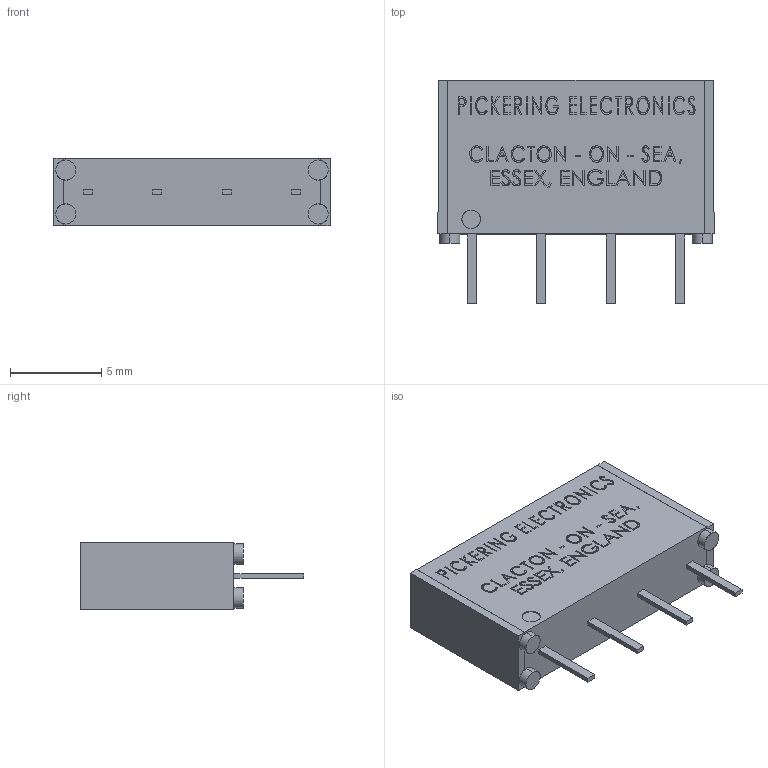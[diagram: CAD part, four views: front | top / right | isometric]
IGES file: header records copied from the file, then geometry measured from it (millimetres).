
Start section: SolidWorks IGES file using analytic representation for surfaces
Global section: file name: T:\Relays in Solidworks\Batch 1 .IGES\109-1-B-x-xx.IGS; native system: SolidWorks 2009; preprocessor: SolidWorks 2009; author: alex.leming; date: 100629.115324; units: millimetre
Bounding box: 15.1 x 12.2 x 3.7 mm (x, y, z)
Surface area: 599.8 mm2 (no closed solid volume)
Topology: 0 solids, 0 shells, 1013 faces, 8761 edges, 8761 vertices
Faces by surface type: bspline 1003, revolution 10
